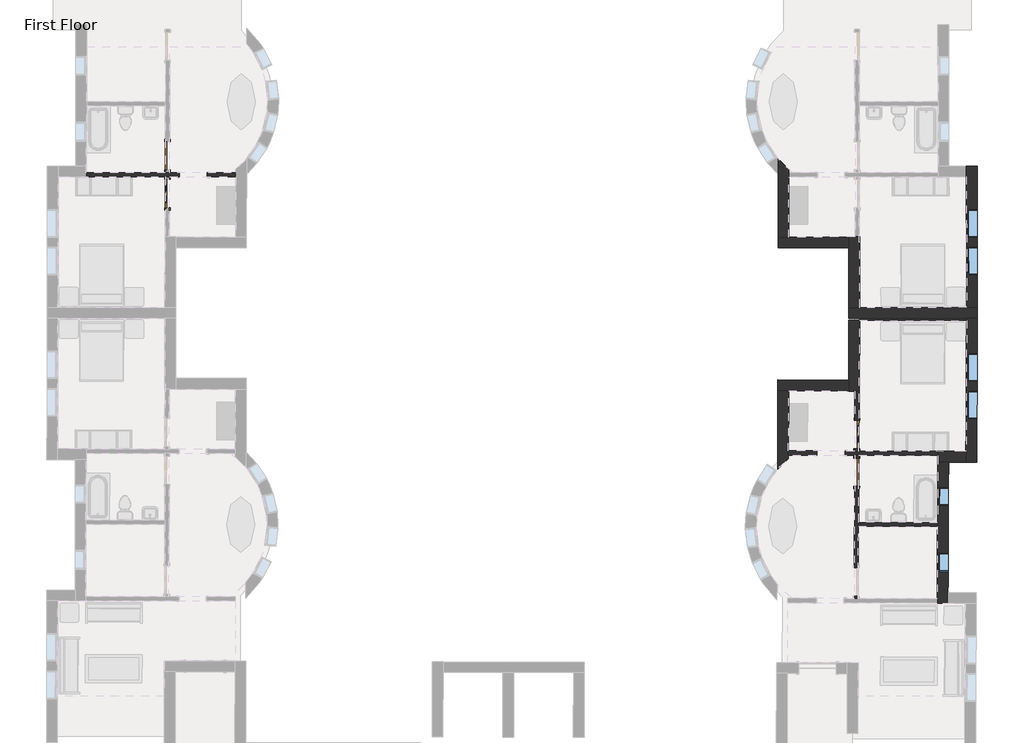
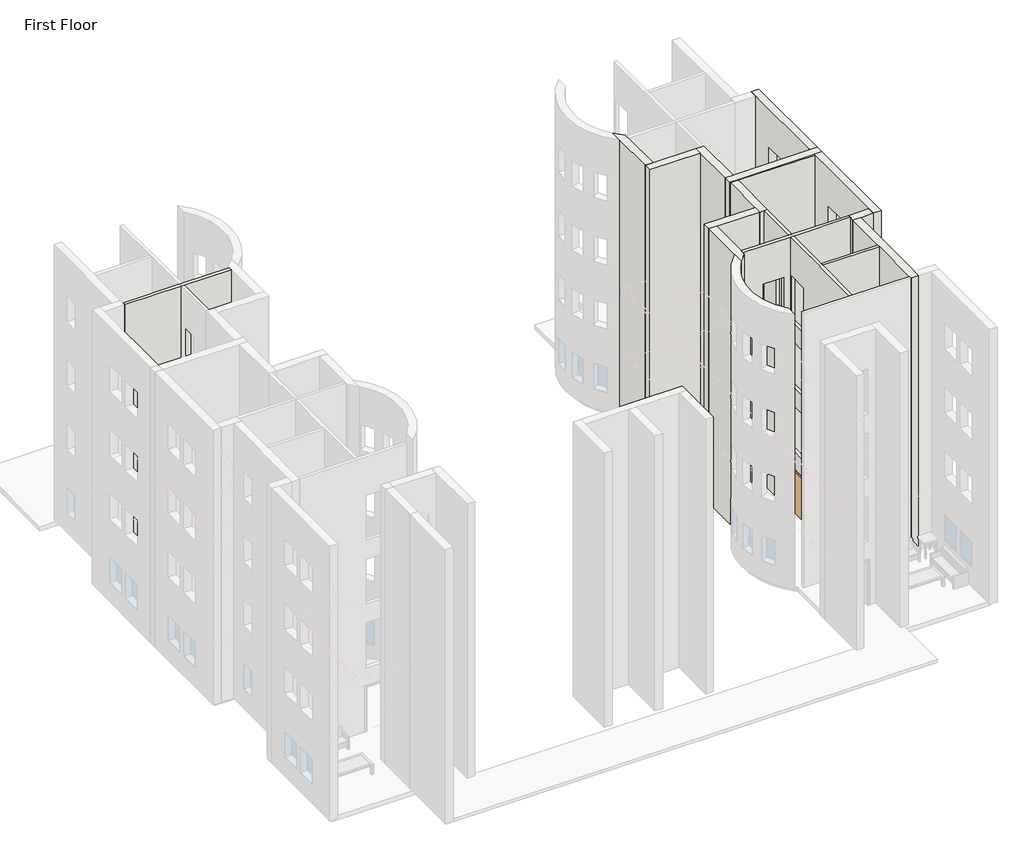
# One storey, part 9 of 22: 16 walls, 6 windows, 4 doors.
"""IFC4 building model written with IfcOpenShell, lengths in millimetres."""

from ifc_helpers import new_model, si_unit, frame, origin, origin_with_axes, place, context, project, spatial, polyline, circle_curve, outline, extrude, faceted_brep, transform, mapped, element, save
from ifc_brep_helpers import plane_surface, revolved_surface, advanced_brep
from components import m_single_decorative_2_0915_x_2134mm_cc9a65e4, m_single_flush_0915_x_2134mm_ab9b6334, m_fixed_0610_x_1220mm_2c28ef1d, m_fixed_0915_x_1220mm_bde29121, m_fixed_0915_x_1220mm_2a2509e7

model = new_model("IFC4")

# Units and contexts
model_context = context("Model", 3, world=origin())
ifc_project = project(units=[si_unit("LENGTHUNIT", "METRE", prefix="MILLI")], contexts=[model_context])

# Site, building, storey
site = spatial("IfcSite", under=ifc_project)
building = spatial("IfcBuilding", under=site)
storey = spatial("IfcBuildingStorey", under=building, Name="First Floor", Elevation=0.0)

# Doors
placement = place(None, origin())
m_single_decorative_2_0915_x_2134mm_shape = m_single_decorative_2_0915_x_2134mm_cc9a65e4(model_context)
element("IfcDoor", 1, ObjectType="M_Single-Decorative 2 : 0915 x 2134mm", at=placement, inside=storey, context=model_context, shape_type="MappedRepresentation", body=[
    mapped(m_single_decorative_2_0915_x_2134mm_shape, transform((-30117.2933431, -15803.1250115, 0.0), x_axis=(0.0014474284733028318, 0.9999989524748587, 0.0), y_axis=(-0.9999989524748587, 0.0014474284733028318, 0.0), z_axis=(0.0, 0.0, 1.0))),
])
element("IfcDoor", 2, ObjectType="M_Single-Decorative 2 : 0915 x 2134mm", at=placement, inside=storey, context=model_context, shape_type="MappedRepresentation", body=[
    mapped(m_single_decorative_2_0915_x_2134mm_shape, transform((-7808.1742155, -23599.2312198, 0.0), x_axis=(-0.004342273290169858, -0.9999905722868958, 0.0), y_axis=(0.9999905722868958, -0.004342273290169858, 0.0), z_axis=(0.0, 0.0, 1.0))),
])
m_single_flush_0915_x_2134mm_shape = m_single_flush_0915_x_2134mm_ab9b6334(model_context)
element("IfcDoor", 3, ObjectType="M_Single-Flush : 0915 x 2134mm", at=placement, inside=storey, context=model_context, shape_type="MappedRepresentation", body=[
    mapped(m_single_flush_0915_x_2134mm_shape, transform((-30115.5274803, -14583.1262895, 0.0), x_axis=(-0.0014474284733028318, -0.9999989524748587, 0.0), y_axis=(0.9999989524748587, -0.0014474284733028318, 0.0), z_axis=(0.0, 0.0, 1.0))),
])
element("IfcDoor", 4, ObjectType="M_Single-Flush : 0915 x 2134mm", at=placement, inside=storey, context=model_context, shape_type="MappedRepresentation", body=[
    mapped(m_single_flush_0915_x_2134mm_shape, transform((-7813.4717889, -24819.219718, 0.0), x_axis=(0.004342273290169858, 0.9999905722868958, 0.0), y_axis=(-0.9999905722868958, 0.004342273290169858, 0.0), z_axis=(0.0, 0.0, 1.0))),
])

# Walls
element("IfcWall", 5, ObjectType="Exterior - Brick on Mtl. Stud", at=placement, inside=storey, context=model_context, shape_type="Brep", body=[
    faceted_brep([(-8066.0409129, -19844.2688215, 0.0), (-7716.0412795, -19843.7622216, 0.0), (-4256.8117198, -19838.755229, 0.0), (-4256.044904, -19838.7541191, 0.0), (-3906.8062202, -19838.2486205, 0.0), (-3906.0452706, -19838.2475191, 0.0), (-3906.0452706, -19838.2475191, 13107.0), (-3906.8062202, -19838.2486205, 13107.0), (-4256.044904, -19838.7541191, 13107.0), (-4256.8117198, -19838.755229, 13107.0), (-7716.0412795, -19843.7622216, 13107.0), (-8066.0409129, -19844.2688215, 13107.0), (-8066.5475129, -19494.2691882, 0.0), (-8066.5475129, -19494.2691882, 13107.0), (-7716.5478795, -19493.7625882, 13107.0), (-4256.5515039, -19488.7544857, 13107.0), (-3906.5518706, -19488.2478857, 13107.0), (-3906.5518706, -19488.2478857, 0.0), (-4256.5515039, -19488.7544857, 0.0), (-7716.5478795, -19493.7625882, 0.0)], [[[0, 1, 2, 3, 4, 5, 6, 7, 8, 9, 10, 11]], [[12, 13, 14, 15, 16, 17, 18, 19]], [[5, 4, 3, 2, 1, 0, 12, 19, 18, 17]], [[11, 10, 9, 8, 7, 6, 16, 15, 14, 13]], [[6, 5, 17, 16]], [[0, 11, 13, 12]]]),
])
element("IfcWall", 6, ObjectType="Exterior - Brick on Mtl. Stud", at=placement, inside=storey, context=model_context, shape_type="Brep", body=[
    faceted_brep([(-3906.5518706, -19488.2478857, 0.0), (-3913.1695136, -14916.252675, 0.0), (-3913.1695136, -14916.252675, 13107.0), (-3906.5518706, -19488.2478857, 13107.0), (-3909.3872382, -17529.3499377, 915.0), (-3908.0628412, -18444.3489792, 915.0), (-3908.0628412, -18444.3489792, 2135.0), (-3909.3872382, -17529.3499377, 2135.0), (-3911.151943, -16310.1512149, 915.0), (-3909.827546, -17225.1502564, 915.0), (-3909.827546, -17225.1502564, 2135.0), (-3911.151943, -16310.1512149, 2135.0), (-3911.151943, -16310.1512149, 10059.0), (-3909.827546, -17225.1502564, 10059.0), (-3909.827546, -17225.1502564, 11279.0), (-3911.151943, -16310.1512149, 11279.0), (-3909.3872382, -17529.3499377, 10059.0), (-3908.0628412, -18444.3489792, 10059.0), (-3908.0628412, -18444.3489792, 11279.0), (-3909.3872382, -17529.3499377, 11279.0), (-3911.151943, -16310.1512149, 3963.0), (-3909.827546, -17225.1502564, 3963.0), (-3909.827546, -17225.1502564, 5183.0), (-3911.151943, -16310.1512149, 5183.0), (-3909.3872382, -17529.3499377, 3963.0), (-3908.0628412, -18444.3489792, 3963.0), (-3908.0628412, -18444.3489792, 5183.0), (-3909.3872382, -17529.3499377, 5183.0), (-3911.151943, -16310.1512149, 7011.0), (-3909.827546, -17225.1502564, 7011.0), (-3909.827546, -17225.1502564, 8231.0), (-3911.151943, -16310.1512149, 8231.0), (-3909.3872382, -17529.3499377, 7011.0), (-3908.0628412, -18444.3489792, 7011.0), (-3908.0628412, -18444.3489792, 8231.0), (-3909.3872382, -17529.3499377, 8231.0), (-4256.5515039, -19488.7544857, 0.0), (-4256.5515039, -19488.7544857, 13107.0), (-4262.662547, -15266.7589083, 13107.0), (-4263.1691469, -14916.759275, 13107.0), (-4263.1691469, -14916.759275, 0.0), (-4262.662547, -15266.7589083, 0.0), (-4259.3868716, -17529.8565377, 915.0), (-4259.3868716, -17529.8565377, 2135.0), (-4258.0624745, -18444.8555792, 2135.0), (-4258.0624745, -18444.8555792, 915.0), (-4261.1515764, -16310.6578148, 915.0), (-4261.1515764, -16310.6578148, 2135.0), (-4259.8271793, -17225.6568563, 2135.0), (-4259.8271793, -17225.6568563, 915.0), (-4261.1515764, -16310.6578148, 10059.0), (-4261.1515764, -16310.6578148, 11279.0), (-4259.8271793, -17225.6568563, 11279.0), (-4259.8271793, -17225.6568563, 10059.0), (-4259.3868716, -17529.8565377, 10059.0), (-4259.3868716, -17529.8565377, 11279.0), (-4258.0624745, -18444.8555792, 11279.0), (-4258.0624745, -18444.8555792, 10059.0), (-4261.1515764, -16310.6578148, 3963.0), (-4261.1515764, -16310.6578148, 5183.0), (-4259.8271793, -17225.6568563, 5183.0), (-4259.8271793, -17225.6568563, 3963.0), (-4259.3868716, -17529.8565377, 3963.0), (-4259.3868716, -17529.8565377, 5183.0), (-4258.0624745, -18444.8555792, 5183.0), (-4258.0624745, -18444.8555792, 3963.0), (-4261.1515764, -16310.6578148, 7011.0), (-4261.1515764, -16310.6578148, 8231.0), (-4259.8271793, -17225.6568563, 8231.0), (-4259.8271793, -17225.6568563, 7011.0), (-4259.3868716, -17529.8565377, 7011.0), (-4259.3868716, -17529.8565377, 8231.0), (-4258.0624745, -18444.8555792, 8231.0), (-4258.0624745, -18444.8555792, 7011.0)], [[[0, 1, 2, 3], [4, 5, 6, 7], [8, 9, 10, 11], [12, 13, 14, 15], [16, 17, 18, 19], [20, 21, 22, 23], [24, 25, 26, 27], [28, 29, 30, 31], [32, 33, 34, 35]], [[36, 37, 38, 39, 40, 41], [42, 43, 44, 45], [46, 47, 48, 49], [50, 51, 52, 53], [54, 55, 56, 57], [58, 59, 60, 61], [62, 63, 64, 65], [66, 67, 68, 69], [70, 71, 72, 73]], [[1, 0, 36, 41, 40]], [[3, 2, 39, 38, 37]], [[0, 3, 37, 36]], [[2, 1, 40, 39]], [[43, 42, 4, 7]], [[44, 43, 7, 6]], [[45, 44, 6, 5]], [[42, 45, 5, 4]], [[47, 46, 8, 11]], [[48, 47, 11, 10]], [[49, 48, 10, 9]], [[46, 49, 9, 8]], [[51, 50, 12, 15]], [[52, 51, 15, 14]], [[53, 52, 14, 13]], [[50, 53, 13, 12]], [[55, 54, 16, 19]], [[56, 55, 19, 18]], [[57, 56, 18, 17]], [[54, 57, 17, 16]], [[59, 58, 20, 23]], [[60, 59, 23, 22]], [[61, 60, 22, 21]], [[58, 61, 21, 20]], [[63, 62, 24, 27]], [[64, 63, 27, 26]], [[65, 64, 26, 25]], [[62, 65, 25, 24]], [[67, 66, 28, 31]], [[68, 67, 31, 30]], [[69, 68, 30, 29]], [[66, 69, 29, 28]], [[71, 70, 32, 35]], [[72, 71, 35, 34]], [[73, 72, 34, 33]], [[70, 73, 33, 32]]]),
])
element("IfcWall", 7, ObjectType="Exterior - Brick on Mtl. Stud", at=placement, inside=storey, context=model_context, shape_type="Brep", body=[
    faceted_brep([(-7716.5478795, -19493.7625882, 0.0), (-7719.856701, -17207.7649828, 0.0), (-7719.856701, -17207.7649828, 13107.0), (-7716.5478795, -19493.7625882, 13107.0), (-8066.5475129, -19494.2691882, 0.0), (-8066.5475129, -19494.2691882, 13107.0), (-8069.3497344, -17558.2712162, 13107.0), (-8069.8563344, -17208.2715828, 13107.0), (-8069.8563344, -17208.2715828, 0.0), (-8069.3497344, -17558.2712162, 0.0), (-7862.6065515, -17207.9716033, 0.0), (-7727.1066934, -17207.7754767, 0.0), (-7727.1066934, -17207.7754767, 13107.0), (-7862.6065515, -17207.9716033, 13107.0)], [[[0, 1, 2, 3]], [[4, 5, 6, 7, 8, 9]], [[1, 0, 4, 9, 8, 10, 11]], [[3, 2, 12, 13, 7, 6, 5]], [[0, 3, 5, 4]], [[2, 1, 11, 10, 8, 7, 13, 12]]]),
])
element("IfcWall", 8, ObjectType="Exterior - Brick on Mtl. Stud", at=placement, inside=storey, context=model_context, shape_type="Brep", body=[
    faceted_brep([(-8069.8563344, -17208.2715828, 0.0), (-10005.8543064, -17211.0738043, 0.0), (-10355.8539397, -17211.5804043, 0.0), (-10355.8539397, -17211.5804043, 13107.0), (-10005.8543064, -17211.0738043, 13107.0), (-8069.8563344, -17208.2715828, 13107.0), (-8069.3497344, -17558.2712162, 0.0), (-8069.3497344, -17558.2712162, 13107.0), (-10355.3473398, -17561.5800377, 13107.0), (-10355.3473398, -17561.5800377, 0.0)], [[[0, 1, 2, 3, 4, 5]], [[6, 7, 8, 9]], [[2, 1, 0, 6, 9]], [[5, 4, 3, 8, 7]], [[0, 5, 7, 6]], [[3, 2, 9, 8]]]),
])
element("IfcWall", 9, ObjectType="Exterior - Brick on Mtl. Stud", at=placement, inside=storey, context=model_context, shape_type="AdvancedBrep", body=[
    advanced_brep(
    [(-10005.8543064, -17211.0738043, 0.0), (-10008.6670217, -15267.8258399, 0.0), (-10008.8631483, -15132.3259819, 0.0), (-10009.0262187, -15019.663975, 0.0), (-10009.0262187, -15019.663975, 13107.0), (-10008.8631483, -15132.3259819, 13107.0), (-10008.6670217, -15267.8258399, 13107.0), (-10005.8543064, -17211.0738043, 13107.0), (-10355.8539397, -17211.5804043, 0.0), (-10355.8539397, -17211.5804043, 13107.0), (-10358.7970277, -15178.2606268, 13107.0), (-10359.5284893, -14672.9086878, 13107.0), (-10359.5284893, -14672.9086878, 0.0), (-10358.7970277, -15178.2606268, 0.0)],
    [
        (0, 1),
        (1, 2),
        (2, 3),
        (3, 4),
        (4, 5),
        (5, 6),
        (6, 7),
        (7, 0),
        (8, 9),
        (9, 10),
        (10, 11),
        (11, 12),
        (12, 13),
        (13, 8),
        (0, 8),
        (12, 3, circle_curve(frame((-8171.1580789, -12811.413604, 0.0), z_axis=(0.0, 0.0, 1.0), x_axis=(-0.0014474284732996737, 0.9999989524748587, 0.0)), 2873.0)),
        (4, 11, circle_curve(frame((-8171.1580789, -12811.413604, 13107.0), z_axis=(0.0, 0.0, -1.0), x_axis=(-0.0014474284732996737, 0.9999989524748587, 0.0)), 2873.0)),
        (9, 7),
    ],
    [
        plane_surface(frame((-10005.6010064, -17386.073621, 0.0), z_axis=(0.9999989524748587, 0.0014474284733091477, 0.0), x_axis=(-0.0014474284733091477, 0.9999989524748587, 0.0))),
        plane_surface(frame((-10355.6006397, -17386.580221, 0.0), z_axis=(-0.9999989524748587, -0.0014474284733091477, 0.0), x_axis=(0.0014474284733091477, -0.9999989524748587, 0.0))),
        plane_surface(frame((-10005.6010064, -17386.073621, 0.0), z_axis=(0.0, 0.0, -1.0), x_axis=(-0.9999989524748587, -0.001447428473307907, 0.0))),
        plane_surface(frame((-10008.9098279, -15100.0760157, 13107.0), z_axis=(0.0, 0.0, 1.0), x_axis=(-0.9999989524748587, -0.001447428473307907, 0.0))),
        plane_surface(frame((-7894.8565177, -17208.0182828, 0.0), z_axis=(0.0014474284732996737, -0.9999989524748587, 0.0), x_axis=(-0.9999989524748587, -0.0014474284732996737, 0.0))),
        revolved_surface(polyline([(-8175.31654090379, -9938.41661353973, 0.0), (-8175.31654090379, -9938.41661353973, 13107.0)]), (-8171.1580789, -12811.413604, 0.0), (0.0, 0.0, -1.0)),
    ],
    [
        (0, [[1, 2, 3, 4, 5, 6, 7, 8]]),
        (1, [[9, 10, 11, 12, 13, 14]]),
        (2, [[-3, -2, -1, 15, -14, -13, 16]]),
        (3, [[-7, -6, -5, 17, -11, -10, 18]]),
        (4, [[-8, -18, -9, -15]]),
        (5, [[-4, -16, -12, -17]]),
    ],
),
])
element("IfcWall", 10, ObjectType="Exterior - Brick on Mtl. Stud", at=placement, inside=storey, context=model_context, shape_type="SweptSolid", body=[
    extrude(outline(polyline([(-4255.9217026, -19923.8714208), (-7715.947074, -19908.8469034), (-7716.0412795, -19843.7622216), (-4256.044904, -19838.7541191), (-4255.9217026, -19923.8714208)])), origin_with_axes(), (0.0, 0.0, 1.0), 13107.0),
])
element("IfcWall", 11, ObjectType="Exterior - Brick on Mtl. Stud", at=placement, inside=storey, context=model_context, shape_type="Brep", body=[
    faceted_brep([(-4256.8117198, -19838.755229, 0.0), (-4275.5143752, -24145.8261474, 0.0), (-4277.0341708, -24495.8228477, 0.0), (-4277.0341708, -24495.8228477, 13107.0), (-4275.5143752, -24145.8261474, 13107.0), (-4256.8117198, -19838.755229, 13107.0), (-4265.6873765, -21882.7474833, 915.0), (-4261.7141964, -20967.7561097, 915.0), (-4261.7141964, -20967.7561097, 2135.0), (-4265.6873765, -21882.7474833, 2135.0), (-4270.9814761, -23101.935989, 915.0), (-4267.008296, -22186.9446154, 915.0), (-4267.008296, -22186.9446154, 2135.0), (-4270.9814761, -23101.935989, 2135.0), (-4270.9814761, -23101.935989, 10059.0), (-4267.008296, -22186.9446154, 10059.0), (-4267.008296, -22186.9446154, 11279.0), (-4270.9814761, -23101.935989, 11279.0), (-4265.6873765, -21882.7474833, 10059.0), (-4261.7141964, -20967.7561097, 10059.0), (-4261.7141964, -20967.7561097, 11279.0), (-4265.6873765, -21882.7474833, 11279.0), (-4270.9814761, -23101.935989, 3963.0), (-4267.008296, -22186.9446154, 3963.0), (-4267.008296, -22186.9446154, 5183.0), (-4270.9814761, -23101.935989, 5183.0), (-4265.6873765, -21882.7474833, 3963.0), (-4261.7141964, -20967.7561097, 3963.0), (-4261.7141964, -20967.7561097, 5183.0), (-4265.6873765, -21882.7474833, 5183.0), (-4270.9814761, -23101.935989, 7011.0), (-4267.008296, -22186.9446154, 7011.0), (-4267.008296, -22186.9446154, 8231.0), (-4270.9814761, -23101.935989, 8231.0), (-4265.6873765, -21882.7474833, 7011.0), (-4261.7141964, -20967.7561097, 7011.0), (-4261.7141964, -20967.7561097, 8231.0), (-4265.6873765, -21882.7474833, 8231.0), (-3906.8062202, -19838.2486205, 0.0), (-3906.8062202, -19838.2486205, 13107.0), (-3927.0374705, -24497.3426434, 13107.0), (-3927.0374705, -24497.3426434, 0.0), (-3915.6906762, -21884.267279, 915.0), (-3915.6906762, -21884.267279, 2135.0), (-3911.7174961, -20969.2759053, 2135.0), (-3911.7174961, -20969.2759053, 915.0), (-3920.9847758, -23103.4557847, 915.0), (-3920.9847758, -23103.4557847, 2135.0), (-3917.0115957, -22188.464411, 2135.0), (-3917.0115957, -22188.464411, 915.0), (-3920.9847758, -23103.4557847, 10059.0), (-3920.9847758, -23103.4557847, 11279.0), (-3917.0115957, -22188.464411, 11279.0), (-3917.0115957, -22188.464411, 10059.0), (-3915.6906762, -21884.267279, 10059.0), (-3915.6906762, -21884.267279, 11279.0), (-3911.7174961, -20969.2759053, 11279.0), (-3911.7174961, -20969.2759053, 10059.0), (-3920.9847758, -23103.4557847, 3963.0), (-3920.9847758, -23103.4557847, 5183.0), (-3917.0115957, -22188.464411, 5183.0), (-3917.0115957, -22188.464411, 3963.0), (-3915.6906762, -21884.267279, 3963.0), (-3915.6906762, -21884.267279, 5183.0), (-3911.7174961, -20969.2759053, 5183.0), (-3911.7174961, -20969.2759053, 3963.0), (-3920.9847758, -23103.4557847, 7011.0), (-3920.9847758, -23103.4557847, 8231.0), (-3917.0115957, -22188.464411, 8231.0), (-3917.0115957, -22188.464411, 7011.0), (-3915.6906762, -21884.267279, 7011.0), (-3915.6906762, -21884.267279, 8231.0), (-3911.7174961, -20969.2759053, 8231.0), (-3911.7174961, -20969.2759053, 7011.0)], [[[0, 1, 2, 3, 4, 5], [6, 7, 8, 9], [10, 11, 12, 13], [14, 15, 16, 17], [18, 19, 20, 21], [22, 23, 24, 25], [26, 27, 28, 29], [30, 31, 32, 33], [34, 35, 36, 37]], [[38, 39, 40, 41], [42, 43, 44, 45], [46, 47, 48, 49], [50, 51, 52, 53], [54, 55, 56, 57], [58, 59, 60, 61], [62, 63, 64, 65], [66, 67, 68, 69], [70, 71, 72, 73]], [[2, 1, 0, 38, 41]], [[5, 4, 3, 40, 39]], [[0, 5, 39, 38]], [[3, 2, 41, 40]], [[43, 42, 6, 9]], [[44, 43, 9, 8]], [[45, 44, 8, 7]], [[42, 45, 7, 6]], [[47, 46, 10, 13]], [[48, 47, 13, 12]], [[49, 48, 12, 11]], [[46, 49, 11, 10]], [[51, 50, 14, 17]], [[52, 51, 17, 16]], [[53, 52, 16, 15]], [[50, 53, 15, 14]], [[55, 54, 18, 21]], [[56, 55, 21, 20]], [[57, 56, 20, 19]], [[54, 57, 19, 18]], [[59, 58, 22, 25]], [[60, 59, 25, 24]], [[61, 60, 24, 23]], [[58, 61, 23, 22]], [[63, 62, 26, 29]], [[64, 63, 29, 28]], [[65, 64, 28, 27]], [[62, 65, 27, 26]], [[67, 66, 30, 33]], [[68, 67, 33, 32]], [[69, 68, 32, 31]], [[66, 69, 31, 30]], [[71, 70, 34, 37]], [[72, 71, 37, 36]], [[73, 72, 36, 35]], [[70, 73, 35, 34]]]),
])
element("IfcWall", 12, ObjectType="Exterior - Brick on Mtl. Stud", at=placement, inside=storey, context=model_context, shape_type="Brep", body=[
    faceted_brep([(-4275.5143752, -24145.8261474, 0.0), (-5189.9057545, -24141.8555727, 0.0), (-5189.9057545, -24141.8555727, 13107.0), (-4275.5143752, -24145.8261474, 13107.0), (-4277.0341708, -24495.8228477, 0.0), (-4277.0341708, -24495.8228477, 13107.0), (-4841.4288498, -24493.3720687, 13107.0), (-5191.4255501, -24491.852273, 13107.0), (-5191.4255501, -24491.852273, 0.0), (-4841.4288498, -24493.3720687, 0.0), (-5190.525614, -24284.6042269, 0.0), (-5189.9372359, -24149.1055044, 0.0), (-5189.9372359, -24149.1055044, 13107.0), (-5190.525614, -24284.6042269, 13107.0)], [[[0, 1, 2, 3]], [[4, 5, 6, 7, 8, 9]], [[1, 0, 4, 9, 8, 10, 11]], [[3, 2, 12, 13, 7, 6, 5]], [[0, 3, 5, 4]], [[2, 1, 11, 10, 8, 7, 13, 12]]]),
])
element("IfcWall", 13, ObjectType="Exterior - Brick on Mtl. Stud", at=placement, inside=storey, context=model_context, shape_type="Brep", body=[
    faceted_brep([(-5191.4255501, -24491.852273, 0.0), (-5199.9303266, -26450.4338079, 0.0), (-5200.5187046, -26585.9325305, 0.0), (-5210.6585641, -28921.0605153, 0.0), (-5211.2469421, -29056.5592379, 0.0), (-5211.2784236, -29063.8091695, 0.0), (-5211.2784236, -29063.8091695, 13107.0), (-5211.2469421, -29056.5592379, 13107.0), (-5210.6585641, -28921.0605153, 13107.0), (-5200.5187046, -26585.9325305, 13107.0), (-5199.9303266, -26450.4338079, 13107.0), (-5191.4255501, -24491.852273, 13107.0), (-5197.5783343, -25908.7889144, 915.0), (-5194.9295475, -25298.7946654, 915.0), (-5194.9295475, -25298.7946654, 2135.0), (-5197.5783343, -25908.7889144, 2135.0), (-5206.8430085, -28042.3687995, 915.0), (-5204.1942218, -27432.3745504, 915.0), (-5204.1942218, -27432.3745504, 2135.0), (-5206.8430085, -28042.3687995, 2135.0), (-5206.8430085, -28042.3687995, 10059.0), (-5204.1942218, -27432.3745504, 10059.0), (-5204.1942218, -27432.3745504, 11279.0), (-5206.8430085, -28042.3687995, 11279.0), (-5197.5783343, -25908.7889144, 10059.0), (-5194.9295475, -25298.7946654, 10059.0), (-5194.9295475, -25298.7946654, 11279.0), (-5197.5783343, -25908.7889144, 11279.0), (-5206.8430085, -28042.3687995, 3963.0), (-5204.1942218, -27432.3745504, 3963.0), (-5204.1942218, -27432.3745504, 5183.0), (-5206.8430085, -28042.3687995, 5183.0), (-5197.5783343, -25908.7889144, 3963.0), (-5194.9295475, -25298.7946654, 3963.0), (-5194.9295475, -25298.7946654, 5183.0), (-5197.5783343, -25908.7889144, 5183.0), (-5206.8430085, -28042.3687995, 7011.0), (-5204.1942218, -27432.3745504, 7011.0), (-5204.1942218, -27432.3745504, 8231.0), (-5206.8430085, -28042.3687995, 8231.0), (-5197.5783343, -25908.7889144, 7011.0), (-5194.9295475, -25298.7946654, 7011.0), (-5194.9295475, -25298.7946654, 8231.0), (-5197.5783343, -25908.7889144, 8231.0), (-4841.4288498, -24493.3720687, 0.0), (-4841.4288498, -24493.3720687, 13107.0), (-4859.7619276, -28715.3322649, 13107.0), (-4861.2817233, -29065.3289652, 13107.0), (-4861.2817233, -29065.3289652, 0.0), (-4859.7619276, -28715.3322649, 0.0), (-4847.5816339, -25910.3087101, 915.0), (-4847.5816339, -25910.3087101, 2135.0), (-4844.9328472, -25300.314461, 2135.0), (-4844.9328472, -25300.314461, 915.0), (-4856.8463082, -28043.8885951, 915.0), (-4856.8463082, -28043.8885951, 2135.0), (-4854.1975215, -27433.894346, 2135.0), (-4854.1975215, -27433.894346, 915.0), (-4856.8463082, -28043.8885951, 10059.0), (-4856.8463082, -28043.8885951, 11279.0), (-4854.1975215, -27433.894346, 11279.0), (-4854.1975215, -27433.894346, 10059.0), (-4847.5816339, -25910.3087101, 10059.0), (-4847.5816339, -25910.3087101, 11279.0), (-4844.9328472, -25300.314461, 11279.0), (-4844.9328472, -25300.314461, 10059.0), (-4856.8463082, -28043.8885951, 3963.0), (-4856.8463082, -28043.8885951, 5183.0), (-4854.1975215, -27433.894346, 5183.0), (-4854.1975215, -27433.894346, 3963.0), (-4847.5816339, -25910.3087101, 3963.0), (-4847.5816339, -25910.3087101, 5183.0), (-4844.9328472, -25300.314461, 5183.0), (-4844.9328472, -25300.314461, 3963.0), (-4856.8463082, -28043.8885951, 7011.0), (-4856.8463082, -28043.8885951, 8231.0), (-4854.1975215, -27433.894346, 8231.0), (-4854.1975215, -27433.894346, 7011.0), (-4847.5816339, -25910.3087101, 7011.0), (-4847.5816339, -25910.3087101, 8231.0), (-4844.9328472, -25300.314461, 8231.0), (-4844.9328472, -25300.314461, 7011.0)], [[[0, 1, 2, 3, 4, 5, 6, 7, 8, 9, 10, 11], [12, 13, 14, 15], [16, 17, 18, 19], [20, 21, 22, 23], [24, 25, 26, 27], [28, 29, 30, 31], [32, 33, 34, 35], [36, 37, 38, 39], [40, 41, 42, 43]], [[44, 45, 46, 47, 48, 49], [50, 51, 52, 53], [54, 55, 56, 57], [58, 59, 60, 61], [62, 63, 64, 65], [66, 67, 68, 69], [70, 71, 72, 73], [74, 75, 76, 77], [78, 79, 80, 81]], [[5, 4, 3, 2, 1, 0, 44, 49, 48]], [[11, 10, 9, 8, 7, 6, 47, 46, 45]], [[0, 11, 45, 44]], [[6, 5, 48, 47]], [[51, 50, 12, 15]], [[52, 51, 15, 14]], [[53, 52, 14, 13]], [[50, 53, 13, 12]], [[55, 54, 16, 19]], [[56, 55, 19, 18]], [[57, 56, 18, 17]], [[54, 57, 17, 16]], [[59, 58, 20, 23]], [[60, 59, 23, 22]], [[61, 60, 22, 21]], [[58, 61, 21, 20]], [[63, 62, 24, 27]], [[64, 63, 27, 26]], [[65, 64, 26, 25]], [[62, 65, 25, 24]], [[67, 66, 28, 31]], [[68, 67, 31, 30]], [[69, 68, 30, 29]], [[66, 69, 29, 28]], [[71, 70, 32, 35]], [[72, 71, 35, 34]], [[73, 72, 34, 33]], [[70, 73, 33, 32]], [[75, 74, 36, 39]], [[76, 75, 39, 38]], [[77, 76, 38, 37]], [[74, 77, 37, 36]], [[79, 78, 40, 43]], [[80, 79, 43, 42]], [[81, 80, 42, 41]], [[78, 81, 41, 40]]]),
])
element("IfcWall", 14, ObjectType="Exterior - Brick on Mtl. Stud", at=placement, inside=storey, context=model_context, shape_type="Brep", body=[
    faceted_brep([(-8067.1453777, -19907.32189, 0.0), (-8075.5520188, -21843.303638, 0.0), (-8077.0718145, -22193.3003383, 0.0), (-8077.0718145, -22193.3003383, 13107.0), (-8075.5520188, -21843.303638, 13107.0), (-8067.1453777, -19907.32189, 13107.0), (-7717.1486774, -19908.8416857, 0.0), (-7717.1486774, -19908.8416857, 13107.0), (-7727.0751142, -22194.8201339, 13107.0), (-7727.0751142, -22194.8201339, 0.0), (-7734.3250458, -22194.7886524, 0.0), (-7869.8237684, -22194.2002744, 0.0), (-7869.8237684, -22194.2002744, 13107.0), (-7734.3250458, -22194.7886524, 13107.0)], [[[0, 1, 2, 3, 4, 5]], [[6, 7, 8, 9]], [[2, 1, 0, 6, 9, 10, 11]], [[5, 4, 3, 12, 13, 8, 7]], [[0, 5, 7, 6]], [[3, 2, 11, 10, 9, 8, 13, 12]]]),
])
element("IfcWall", 15, ObjectType="Exterior - Brick on Mtl. Stud", at=placement, inside=storey, context=model_context, shape_type="Brep", body=[
    faceted_brep([(-8075.5520188, -21843.303638, 0.0), (-10361.5304671, -21833.3772012, 0.0), (-10361.5304671, -21833.3772012, 13107.0), (-8075.5520188, -21843.303638, 13107.0), (-8077.0718145, -22193.3003383, 0.0), (-8077.0718145, -22193.3003383, 13107.0), (-10013.0535624, -22184.8936972, 13107.0), (-10363.0502627, -22183.3739015, 13107.0), (-10363.0502627, -22183.3739015, 0.0), (-10013.0535624, -22184.8936972, 0.0)], [[[0, 1, 2, 3]], [[4, 5, 6, 7, 8, 9]], [[1, 0, 4, 9, 8]], [[3, 2, 7, 6, 5]], [[0, 3, 5, 4]], [[2, 1, 8, 7]]]),
])
element("IfcWall", 16, ObjectType="Exterior - Brick on Mtl. Stud", at=placement, inside=storey, context=model_context, shape_type="AdvancedBrep", body=[
    advanced_brep(
    [(-10363.0502627, -22183.3739015, 0.0), (-10371.8795021, -24216.6766394, 0.0), (-10374.0738807, -24722.0243435, 0.0), (-10374.0738807, -24722.0243435, 13107.0), (-10371.8795021, -24216.6766394, 13107.0), (-10363.0502627, -22183.3739015, 13107.0), (-10013.0535624, -22184.8936972, 0.0), (-10013.0535624, -22184.8936972, 13107.0), (-10021.491685, -24128.1253768, 13107.0), (-10022.080063, -24263.6240993, 13107.0), (-10022.5692728, -24376.2851621, 13107.0), (-10022.5692728, -24376.2851621, 0.0), (-10022.080063, -24263.6240993, 0.0), (-10021.491685, -24128.1253768, 0.0)],
    [
        (0, 1),
        (1, 2),
        (2, 3),
        (3, 4),
        (4, 5),
        (5, 0),
        (6, 7),
        (7, 8),
        (8, 9),
        (9, 10),
        (10, 11),
        (11, 12),
        (12, 13),
        (13, 6),
        (0, 6),
        (11, 2, circle_curve(frame((-8191.1013961, -26589.84664, 0.0), z_axis=(0.0, 0.0, 1.0), x_axis=(-0.0043422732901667, -0.9999905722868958, 0.0)), 2873.0)),
        (3, 10, circle_curve(frame((-8191.1013961, -26589.84664, 13107.0), z_axis=(0.0, 0.0, -1.0), x_axis=(-0.0043422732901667, -0.9999905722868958, 0.0)), 2873.0)),
        (7, 5),
    ],
    [
        plane_surface(frame((-10362.2903649, -22008.3755514, 0.0), z_axis=(-0.9999905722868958, 0.0043422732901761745, 0.0), x_axis=(-0.0043422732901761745, -0.9999905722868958, 0.0))),
        plane_surface(frame((-10012.2936646, -22009.895347, 0.0), z_axis=(0.9999905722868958, -0.0043422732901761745, 0.0), x_axis=(0.0043422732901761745, 0.9999905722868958, 0.0))),
        plane_surface(frame((-10362.2903649, -22008.3755514, 0.0), z_axis=(0.0, 0.0, -1.0000000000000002), x_axis=(0.9999905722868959, -0.004342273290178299, 0.0))),
        plane_surface(frame((-10372.2168016, -24294.3539996, 13107.0), z_axis=(0.0, 0.0, 1.0000000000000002), x_axis=(0.9999905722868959, -0.004342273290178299, 0.0))),
        plane_surface(frame((-7902.0734643, -22194.0602361, 0.0), z_axis=(0.004342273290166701, 0.9999905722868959, 0.0), x_axis=(0.9999905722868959, -0.004342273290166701, 0.0))),
        revolved_surface(polyline([(-8203.576747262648, -29462.819554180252, 0.0), (-8203.576747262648, -29462.819554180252, 13107.0)]), (-8191.1013961, -26589.84664, 0.0), (0.0, 0.0, -1.0)),
    ],
    [
        (0, [[1, 2, 3, 4, 5, 6]]),
        (1, [[7, 8, 9, 10, 11, 12, 13, 14]]),
        (2, [[-2, -1, 15, -14, -13, -12, 16]]),
        (3, [[-5, -4, 17, -10, -9, -8, 18]]),
        (4, [[-6, -18, -7, -15]]),
        (5, [[-3, -16, -11, -17]]),
    ],
),
])
element("IfcWall", 17, ObjectType="Interior - 135mm Partition (2-hr)", at=placement, inside=storey, context=model_context, shape_type="Brep", body=[
    faceted_brep([(-28820.8152601, -15266.5010087, 2134.0), (-28820.8152601, -15266.5010087, 0.0), (-27905.5162189, -15267.8258399, 0.0), (-27905.5162189, -15267.8258399, 13107.0), (-30048.7639738, -15264.7236389, 13107.0), (-30184.2638319, -15264.5275123, 13107.0), (-32737.1111577, -15260.8324445, 13107.0), (-32737.1111577, -15260.8324445, 0.0), (-30184.2638319, -15264.5275123, 0.0), (-30048.7639738, -15264.7236389, 0.0), (-29735.8143016, -15265.1766116, 0.0), (-29735.8143016, -15265.1766116, 2134.0), (-29735.8143016, -15265.1766116, 11278.0), (-28820.8152601, -15266.5010087, 11278.0), (-28820.8152601, -15266.5010087, 9144.0), (-29735.8143016, -15265.1766116, 9144.0), (-29735.8143016, -15265.1766116, 5182.0), (-28820.8152601, -15266.5010087, 5182.0), (-28820.8152601, -15266.5010087, 3048.0), (-29735.8143016, -15265.1766116, 3048.0), (-29735.8143016, -15265.1766116, 8230.0), (-28820.8152601, -15266.5010087, 8230.0), (-28820.8152601, -15266.5010087, 6096.0), (-29735.8143016, -15265.1766116, 6096.0), (-27905.3200924, -15132.3259819, 0.0), (-28820.6191336, -15131.0011506, 0.0), (-28820.6191336, -15131.0011506, 2134.0), (-29735.6181751, -15129.6767535, 2134.0), (-29735.6181751, -15129.6767535, 0.0), (-30048.5678472, -15129.2237808, 0.0), (-30184.0677053, -15129.0276542, 0.0), (-32736.9150311, -15125.3325865, 0.0), (-32736.9150311, -15125.3325865, 13107.0), (-30184.0677053, -15129.0276542, 13107.0), (-30048.5678472, -15129.2237808, 13107.0), (-27905.3200924, -15132.3259819, 13107.0), (-29735.6181751, -15129.6767535, 11278.0), (-29735.6181751, -15129.6767535, 9144.0), (-28820.6191336, -15131.0011506, 9144.0), (-28820.6191336, -15131.0011506, 11278.0), (-29735.6181751, -15129.6767535, 5182.0), (-29735.6181751, -15129.6767535, 3048.0), (-28820.6191336, -15131.0011506, 3048.0), (-28820.6191336, -15131.0011506, 5182.0), (-29735.6181751, -15129.6767535, 8230.0), (-29735.6181751, -15129.6767535, 6096.0), (-28820.6191336, -15131.0011506, 6096.0), (-28820.6191336, -15131.0011506, 8230.0)], [[[0, 1, 2, 3, 4, 5, 6, 7, 8, 9, 10, 11], [12, 13, 14, 15], [16, 17, 18, 19], [20, 21, 22, 23]], [[24, 25, 26, 27, 28, 29, 30, 31, 32, 33, 34, 35], [36, 37, 38, 39], [40, 41, 42, 43], [44, 45, 46, 47]], [[2, 1, 25, 24]], [[10, 9, 8, 7, 31, 30, 29, 28]], [[6, 5, 4, 3, 35, 34, 33, 32]], [[7, 6, 32, 31]], [[3, 2, 24, 35]], [[28, 27, 11, 10]], [[26, 25, 1, 0]], [[27, 26, 0, 11]], [[37, 36, 12, 15]], [[38, 37, 15, 14]], [[39, 38, 14, 13]], [[36, 39, 13, 12]], [[41, 40, 16, 19]], [[42, 41, 19, 18]], [[43, 42, 18, 17]], [[40, 43, 17, 16]], [[45, 44, 20, 23]], [[46, 45, 23, 22]], [[47, 46, 22, 21]], [[44, 47, 21, 20]]]),
])
element("IfcWall", 18, ObjectType="Interior - 135mm Partition (2-hr)", at=placement, inside=storey, context=model_context, shape_type="Brep", body=[
    faceted_brep([(-9106.2003142, -24132.0998595, 2134.0), (-9106.2003142, -24132.0998595, 0.0), (-10021.491685, -24128.1253768, 0.0), (-10021.491685, -24128.1253768, 13107.0), (-7878.2618909, -24137.431954, 13107.0), (-7742.7631684, -24138.020332, 13107.0), (-5189.9372359, -24149.1055044, 13107.0), (-5189.9372359, -24149.1055044, 0.0), (-7742.7631684, -24138.020332, 0.0), (-7878.2618909, -24137.431954, 0.0), (-8191.2089405, -24136.0730396, 0.0), (-8191.2089405, -24136.0730396, 2134.0), (-8191.2089405, -24136.0730396, 11278.0), (-9106.2003142, -24132.0998595, 11278.0), (-9106.2003142, -24132.0998595, 9144.0), (-8191.2089405, -24136.0730396, 9144.0), (-8191.2089405, -24136.0730396, 5182.0), (-9106.2003142, -24132.0998595, 5182.0), (-9106.2003142, -24132.0998595, 3048.0), (-8191.2089405, -24136.0730396, 3048.0), (-8191.2089405, -24136.0730396, 8230.0), (-9106.2003142, -24132.0998595, 8230.0), (-9106.2003142, -24132.0998595, 6096.0), (-8191.2089405, -24136.0730396, 6096.0), (-10022.080063, -24263.6240993, 0.0), (-9106.7886922, -24267.5985821, 0.0), (-9106.7886922, -24267.5985821, 2134.0), (-8191.7973186, -24271.5717621, 2134.0), (-8191.7973186, -24271.5717621, 0.0), (-7878.850269, -24272.9306765, 0.0), (-7743.3515464, -24273.5190546, 0.0), (-5190.525614, -24284.6042269, 0.0), (-5190.525614, -24284.6042269, 13107.0), (-7743.3515464, -24273.5190546, 13107.0), (-7878.850269, -24272.9306765, 13107.0), (-10022.080063, -24263.6240993, 13107.0), (-8191.7973186, -24271.5717621, 11278.0), (-8191.7973186, -24271.5717621, 9144.0), (-9106.7886922, -24267.5985821, 9144.0), (-9106.7886922, -24267.5985821, 11278.0), (-8191.7973186, -24271.5717621, 5182.0), (-8191.7973186, -24271.5717621, 3048.0), (-9106.7886922, -24267.5985821, 3048.0), (-9106.7886922, -24267.5985821, 5182.0), (-8191.7973186, -24271.5717621, 8230.0), (-8191.7973186, -24271.5717621, 6096.0), (-9106.7886922, -24267.5985821, 6096.0), (-9106.7886922, -24267.5985821, 8230.0)], [[[0, 1, 2, 3, 4, 5, 6, 7, 8, 9, 10, 11], [12, 13, 14, 15], [16, 17, 18, 19], [20, 21, 22, 23]], [[24, 25, 26, 27, 28, 29, 30, 31, 32, 33, 34, 35], [36, 37, 38, 39], [40, 41, 42, 43], [44, 45, 46, 47]], [[2, 1, 25, 24]], [[10, 9, 8, 7, 31, 30, 29, 28]], [[6, 5, 4, 3, 35, 34, 33, 32]], [[7, 6, 32, 31]], [[3, 2, 24, 35]], [[28, 27, 11, 10]], [[26, 25, 1, 0]], [[27, 26, 0, 11]], [[37, 36, 12, 15]], [[38, 37, 15, 14]], [[39, 38, 14, 13]], [[36, 39, 13, 12]], [[41, 40, 16, 19]], [[42, 41, 19, 18]], [[43, 42, 18, 17]], [[40, 43, 17, 16]], [[45, 44, 20, 23]], [[46, 45, 23, 22]], [[47, 46, 22, 21]], [[44, 47, 21, 20]]]),
])
element("IfcWall", 19, ObjectType="Interior - 135mm Partition (2-hr)", at=placement, inside=storey, context=model_context, shape_type="Brep", body=[
    faceted_brep([(-7869.8237684, -22194.2002744, 13107.0), (-7869.8237684, -22194.2002744, 0.0), (-7873.9369868, -23141.441344, 0.0), (-7873.9369868, -23141.441344, 2134.0), (-7877.9101668, -24056.4327176, 2134.0), (-7877.9101668, -24056.4327176, 0.0), (-7878.2618909, -24137.431954, 0.0), (-7878.2618909, -24137.431954, 13107.0), (-7877.9101668, -24056.4327176, 9144.0), (-7873.9369868, -23141.441344, 9144.0), (-7873.9369868, -23141.441344, 11278.0), (-7877.9101668, -24056.4327176, 11278.0), (-7877.9101668, -24056.4327176, 3048.0), (-7873.9369868, -23141.441344, 3048.0), (-7873.9369868, -23141.441344, 5182.0), (-7877.9101668, -24056.4327176, 5182.0), (-7877.9101668, -24056.4327176, 6096.0), (-7873.9369868, -23141.441344, 6096.0), (-7873.9369868, -23141.441344, 8230.0), (-7877.9101668, -24056.4327176, 8230.0), (-7734.3250458, -22194.7886524, 0.0), (-7734.3250458, -22194.7886524, 13107.0), (-7742.7631684, -24138.020332, 13107.0), (-7742.7631684, -24138.020332, 0.0), (-7742.4114443, -24057.0210957, 0.0), (-7742.4114443, -24057.0210957, 2134.0), (-7738.4382642, -23142.029722, 2134.0), (-7738.4382642, -23142.029722, 0.0), (-7738.4382642, -23142.029722, 9144.0), (-7742.4114443, -24057.0210957, 9144.0), (-7742.4114443, -24057.0210957, 11278.0), (-7738.4382642, -23142.029722, 11278.0), (-7738.4382642, -23142.029722, 3048.0), (-7742.4114443, -24057.0210957, 3048.0), (-7742.4114443, -24057.0210957, 5182.0), (-7738.4382642, -23142.029722, 5182.0), (-7738.4382642, -23142.029722, 6096.0), (-7742.4114443, -24057.0210957, 6096.0), (-7742.4114443, -24057.0210957, 8230.0), (-7738.4382642, -23142.029722, 8230.0)], [[[0, 1, 2, 3, 4, 5, 6, 7], [8, 9, 10, 11], [12, 13, 14, 15], [16, 17, 18, 19]], [[20, 21, 22, 23, 24, 25, 26, 27], [28, 29, 30, 31], [32, 33, 34, 35], [36, 37, 38, 39]], [[1, 20, 27, 2]], [[5, 24, 23, 6]], [[21, 0, 7, 22]], [[1, 0, 21, 20]], [[7, 6, 23, 22]], [[4, 25, 24, 5]], [[25, 4, 3, 26]], [[26, 3, 2, 27]], [[29, 28, 9, 8]], [[30, 29, 8, 11]], [[31, 30, 11, 10]], [[28, 31, 10, 9]], [[33, 32, 13, 12]], [[34, 33, 12, 15]], [[35, 34, 15, 14]], [[32, 35, 14, 13]], [[37, 36, 17, 16]], [[38, 37, 16, 19]], [[39, 38, 19, 18]], [[36, 39, 18, 17]]]),
    faceted_brep([(-7898.9832191, -28909.3869649, 0.0), (-7898.9832191, -28909.3869649, 13107.0), (-7878.850269, -24272.9306765, 13107.0), (-7878.850269, -24272.9306765, 0.0), (-7879.2345602, -24361.4298422, 0.0), (-7879.2345602, -24361.4298422, 2134.0), (-7883.2077402, -25276.4212158, 2134.0), (-7883.2077402, -25276.4212158, 0.0), (-7894.6420314, -27909.6463903, 0.0), (-7894.6420314, -27909.6463903, 2134.0), (-7898.6152114, -28824.6377639, 2134.0), (-7898.6152114, -28824.6377639, 0.0), (-7898.6152114, -28824.6377639, 9144.0), (-7894.6420314, -27909.6463903, 9144.0), (-7894.6420314, -27909.6463903, 11278.0), (-7898.6152114, -28824.6377639, 11278.0), (-7883.2077402, -25276.4212158, 9144.0), (-7879.2345602, -24361.4298422, 9144.0), (-7879.2345602, -24361.4298422, 11278.0), (-7883.2077402, -25276.4212158, 11278.0), (-7898.6152114, -28824.6377639, 3048.0), (-7894.6420314, -27909.6463903, 3048.0), (-7894.6420314, -27909.6463903, 5182.0), (-7898.6152114, -28824.6377639, 5182.0), (-7883.2077402, -25276.4212158, 3048.0), (-7879.2345602, -24361.4298422, 3048.0), (-7879.2345602, -24361.4298422, 5182.0), (-7883.2077402, -25276.4212158, 5182.0), (-7898.6152114, -28824.6377639, 6096.0), (-7894.6420314, -27909.6463903, 6096.0), (-7894.6420314, -27909.6463903, 8230.0), (-7898.6152114, -28824.6377639, 8230.0), (-7883.2077402, -25276.4212158, 6096.0), (-7879.2345602, -24361.4298422, 6096.0), (-7879.2345602, -24361.4298422, 8230.0), (-7883.2077402, -25276.4212158, 8230.0), (-7763.4844965, -28909.975343, 13107.0), (-7763.4844965, -28909.975343, 0.0), (-7763.1164889, -28825.226142, 0.0), (-7763.1164889, -28825.226142, 2134.0), (-7759.1433088, -27910.2347683, 2134.0), (-7759.1433088, -27910.2347683, 0.0), (-7753.3446371, -26574.8473581, 0.0), (-7752.756259, -26439.3486356, 0.0), (-7747.7090177, -25277.0095939, 0.0), (-7747.7090177, -25277.0095939, 2134.0), (-7743.7358376, -24362.0182202, 2134.0), (-7743.7358376, -24362.0182202, 0.0), (-7743.3515464, -24273.5190546, 0.0), (-7743.3515464, -24273.5190546, 13107.0), (-7752.756259, -26439.3486356, 13107.0), (-7753.3446371, -26574.8473581, 13107.0), (-7759.1433088, -27910.2347683, 9144.0), (-7763.1164889, -28825.226142, 9144.0), (-7763.1164889, -28825.226142, 11278.0), (-7759.1433088, -27910.2347683, 11278.0), (-7743.7358376, -24362.0182202, 9144.0), (-7747.7090177, -25277.0095939, 9144.0), (-7747.7090177, -25277.0095939, 11278.0), (-7743.7358376, -24362.0182202, 11278.0), (-7759.1433088, -27910.2347683, 3048.0), (-7763.1164889, -28825.226142, 3048.0), (-7763.1164889, -28825.226142, 5182.0), (-7759.1433088, -27910.2347683, 5182.0), (-7743.7358376, -24362.0182202, 3048.0), (-7747.7090177, -25277.0095939, 3048.0), (-7747.7090177, -25277.0095939, 5182.0), (-7743.7358376, -24362.0182202, 5182.0), (-7759.1433088, -27910.2347683, 6096.0), (-7763.1164889, -28825.226142, 6096.0), (-7763.1164889, -28825.226142, 8230.0), (-7759.1433088, -27910.2347683, 8230.0), (-7743.7358376, -24362.0182202, 6096.0), (-7747.7090177, -25277.0095939, 6096.0), (-7747.7090177, -25277.0095939, 8230.0), (-7743.7358376, -24362.0182202, 8230.0)], [[[0, 1, 2, 3, 4, 5, 6, 7, 8, 9, 10, 11], [12, 13, 14, 15], [16, 17, 18, 19], [20, 21, 22, 23], [24, 25, 26, 27], [28, 29, 30, 31], [32, 33, 34, 35]], [[36, 37, 38, 39, 40, 41, 42, 43, 44, 45, 46, 47, 48, 49, 50, 51], [52, 53, 54, 55], [56, 57, 58, 59], [60, 61, 62, 63], [64, 65, 66, 67], [68, 69, 70, 71], [72, 73, 74, 75]], [[37, 0, 11, 38]], [[47, 4, 3, 48]], [[7, 44, 43, 42, 41, 8]], [[1, 36, 51, 50, 49, 2]], [[1, 0, 37, 36]], [[3, 2, 49, 48]], [[5, 4, 47, 46]], [[6, 5, 46, 45]], [[7, 6, 45, 44]], [[39, 38, 11, 10]], [[40, 39, 10, 9]], [[41, 40, 9, 8]], [[53, 52, 13, 12]], [[54, 53, 12, 15]], [[55, 54, 15, 14]], [[52, 55, 14, 13]], [[17, 16, 57, 56]], [[18, 17, 56, 59]], [[19, 18, 59, 58]], [[16, 19, 58, 57]], [[61, 60, 21, 20]], [[62, 61, 20, 23]], [[63, 62, 23, 22]], [[60, 63, 22, 21]], [[25, 24, 65, 64]], [[26, 25, 64, 67]], [[27, 26, 67, 66]], [[24, 27, 66, 65]], [[69, 68, 29, 28]], [[70, 69, 28, 31]], [[71, 70, 31, 30]], [[68, 71, 30, 29]], [[33, 32, 73, 72]], [[34, 33, 72, 75]], [[35, 34, 75, 74]], [[32, 35, 74, 73]]]),
])
element("IfcWall", 20, ObjectType="Interior - 135mm Partition (2-hr)", at=placement, inside=storey, context=model_context, shape_type="SweptSolid", body=[
    extrude(outline(polyline([(-7752.756259, -26439.3486356), (-5199.9303266, -26450.4338079), (-5200.5187046, -26585.9325305), (-7753.3446371, -26574.8473581), (-7752.756259, -26439.3486356)])), origin_with_axes(), (0.0, 0.0, 1.0), 13107.0),
])

# Windows
m_fixed_0610_x_1220mm_shape = m_fixed_0610_x_1220mm_2c28ef1d(model_context)
element("IfcWindow", 21, ObjectType="M_Fixed : 0610 x 1220mm", at=placement, inside=storey, context=model_context, shape_type="MappedRepresentation", body=[
    mapped(m_fixed_0610_x_1220mm_shape, transform((-5008.2557133, -25604.6081373, 0.0), x_axis=(0.004342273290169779, 0.9999905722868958, 0.0), y_axis=(-0.9999905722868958, 0.004342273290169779, 0.0), z_axis=(0.0, 0.0, 1.0))),
])
element("IfcWindow", 22, ObjectType="M_Fixed : 0610 x 1220mm", at=placement, inside=storey, context=model_context, shape_type="MappedRepresentation", body=[
    mapped(m_fixed_0610_x_1220mm_shape, transform((-5017.5203876, -27738.1880223, 0.0), x_axis=(0.004342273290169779, 0.9999905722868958, 0.0), y_axis=(-0.9999905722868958, 0.004342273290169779, 0.0), z_axis=(0.0, 0.0, 1.0))),
])
m_fixed_0915_x_1220mm_shape = m_fixed_0915_x_1220mm_bde29121(model_context)
element("IfcWindow", 23, ObjectType="M_Fixed : 0915 x 1220mm", at=placement, inside=storey, context=model_context, shape_type="MappedRepresentation", body=[
    mapped(m_fixed_0915_x_1220mm_shape, transform((-4075.7025589, -21426.0681439, 0.0), x_axis=(0.004342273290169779, 0.9999905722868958, 0.0), y_axis=(-0.9999905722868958, 0.004342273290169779, 0.0), z_axis=(0.0, 0.0, 1.0))),
])
element("IfcWindow", 24, ObjectType="M_Fixed : 0915 x 1220mm", at=placement, inside=storey, context=model_context, shape_type="MappedRepresentation", body=[
    mapped(m_fixed_0915_x_1220mm_shape, transform((-4080.9966585, -22645.2566496, 0.0), x_axis=(0.004342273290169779, 0.9999905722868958, 0.0), y_axis=(-0.9999905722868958, 0.004342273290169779, 0.0), z_axis=(0.0, 0.0, 1.0))),
])
m_fixed_0915_x_1220mm_2_shape = m_fixed_0915_x_1220mm_2a2509e7(model_context)
element("IfcWindow", 25, ObjectType="M_Fixed : 0915 x 1220mm", at=placement, inside=storey, context=model_context, shape_type="MappedRepresentation", body=[
    mapped(m_fixed_0915_x_1220mm_2_shape, transform((-4070.72487, -17987.0839419, 0.0), x_axis=(0.0014474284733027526, -0.9999989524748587, 0.0), y_axis=(0.9999989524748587, 0.0014474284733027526, 0.0), z_axis=(0.0, 0.0, 1.0))),
])
element("IfcWindow", 26, ObjectType="M_Fixed : 0915 x 1220mm", at=placement, inside=storey, context=model_context, shape_type="MappedRepresentation", body=[
    mapped(m_fixed_0915_x_1220mm_2_shape, transform((-4072.4895748, -16767.885219, 0.0), x_axis=(0.0014474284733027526, -0.9999989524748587, 0.0), y_axis=(0.9999989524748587, 0.0014474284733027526, 0.0), z_axis=(0.0, 0.0, 1.0))),
])

save(model, "model.ifc")
